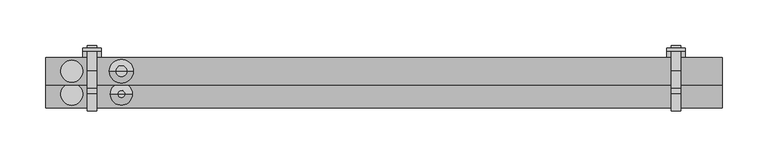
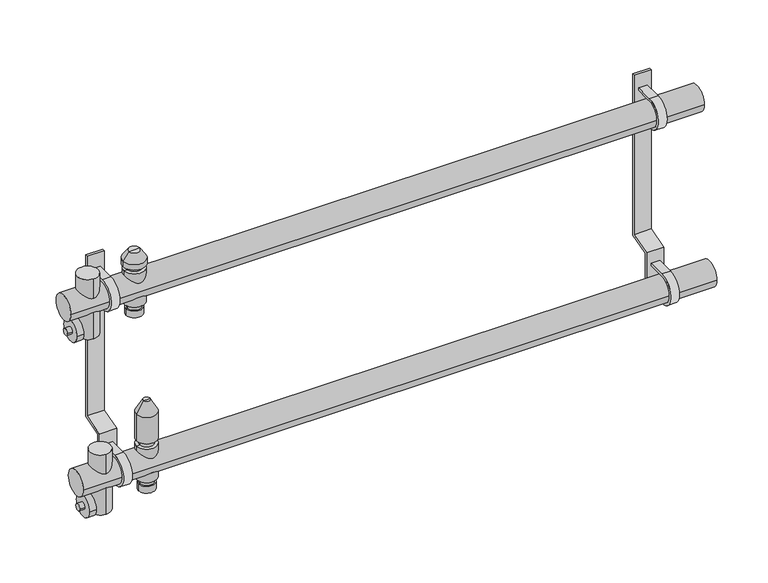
"""IFC4 building model written with IfcOpenShell, lengths in millimetres: valve geometry, PL AT_Manifold_FT-EV : 13 circuits."""

from ifc_helpers import new_model, si_unit, point, frame, frame_2d, origin, origin_2d, place, context, project, spatial, polyline, circle_curve, trimmed, segment, composite_curve, outline, extrude, source, transform, mapped, element, save
from ifc_brep_helpers import plane_surface, cylinder_surface, revolved_surface, advanced_brep


def valve_96d576d6(model_context):
    return source(origin(), model_context, "Body", "SolidModel", [
        advanced_brep(
        [(32.5, 25.0, 164.88733), (51.5, 25.0, 164.88733), (42.0, 25.0, 164.88733), (32.5, 25.0, 172.9630354), (51.5, 25.0, 172.9630354), (34.0, 25.0, 172.9630354), (50.0, 25.0, 172.9630354), (34.0, 25.0, 179.669747), (50.0, 25.0, 179.669747), (30.0, 25.0, 179.669747), (54.0, 25.0, 179.669747), (30.0, 25.0, 220.330253), (54.0, 25.0, 220.330253), (34.0, 25.0, 220.330253), (50.0, 25.0, 220.330253), (34.0, 25.0, 226.0474786), (50.0, 25.0, 226.0474786), (29.0, 25.0, 226.0474786), (55.0, 25.0, 226.0474786), (29.0, 25.0, 232.337955), (55.0, 25.0, 232.337955), (35.6551779, 25.0, 241.842534), (48.3448221, 25.0, 241.842534), (42.0, 25.0, 241.842534)],
        [
            (0, 1, circle_curve(frame((42.0, 25.0, 164.88733), z_axis=(0.0, 0.0, -1.0), x_axis=(1.0, 0.0, 0.0)), 9.5)),
            (1, 2),
            (2, 0),
            (1, 0, circle_curve(frame((42.0, 25.0, 164.88733), z_axis=(0.0, 0.0, -1.0), x_axis=(1.0, 0.0, 0.0)), 9.5)),
            (3, 4, circle_curve(frame((42.0, 25.0, 172.9630354), z_axis=(0.0, 0.0, -1.0), x_axis=(1.0, 0.0, 0.0)), 9.5)),
            (4, 1),
            (0, 3),
            (4, 3, circle_curve(frame((42.0, 25.0, 172.9630354), z_axis=(0.0, 0.0, -1.0), x_axis=(1.0, 0.0, 0.0)), 9.5)),
            (5, 6, circle_curve(frame((42.0, 25.0, 172.9630354), z_axis=(0.0, 0.0, -1.0), x_axis=(1.0, 0.0, 0.0)), 8.0)),
            (6, 4),
            (3, 5),
            (6, 5, circle_curve(frame((42.0, 25.0, 172.9630354), z_axis=(0.0, 0.0, -1.0), x_axis=(1.0, 0.0, 0.0)), 8.0)),
            (7, 8, circle_curve(frame((42.0, 25.0, 179.669747), z_axis=(0.0, 0.0, -1.0), x_axis=(1.0, 0.0, 0.0)), 8.0)),
            (8, 6),
            (5, 7),
            (8, 7, circle_curve(frame((42.0, 25.0, 179.669747), z_axis=(0.0, 0.0, -1.0), x_axis=(1.0, 0.0, 0.0)), 8.0)),
            (9, 10, circle_curve(frame((42.0, 25.0, 179.669747), z_axis=(0.0, 0.0, -1.0), x_axis=(1.0, 0.0, 0.0)), 12.0)),
            (10, 8),
            (7, 9),
            (10, 9, circle_curve(frame((42.0, 25.0, 179.669747), z_axis=(0.0, 0.0, -1.0), x_axis=(1.0, 0.0, 0.0)), 12.0)),
            (11, 12, circle_curve(frame((42.0, 25.0, 220.330253), z_axis=(0.0, 0.0, -1.0), x_axis=(1.0, 0.0, 0.0)), 12.0)),
            (12, 10),
            (9, 11),
            (12, 11, circle_curve(frame((42.0, 25.0, 220.330253), z_axis=(0.0, 0.0, -1.0), x_axis=(1.0, 0.0, 0.0)), 12.0)),
            (13, 14, circle_curve(frame((42.0, 25.0, 220.330253), z_axis=(0.0, 0.0, -1.0), x_axis=(1.0, 0.0, 0.0)), 8.0)),
            (14, 12),
            (11, 13),
            (14, 13, circle_curve(frame((42.0, 25.0, 220.330253), z_axis=(0.0, 0.0, -1.0), x_axis=(1.0, 0.0, 0.0)), 8.0)),
            (15, 16, circle_curve(frame((42.0, 25.0, 226.0474786), z_axis=(0.0, 0.0, -1.0), x_axis=(1.0, 0.0, 0.0)), 8.0)),
            (16, 14),
            (13, 15),
            (16, 15, circle_curve(frame((42.0, 25.0, 226.0474786), z_axis=(0.0, 0.0, -1.0), x_axis=(1.0, 0.0, 0.0)), 8.0)),
            (17, 18, circle_curve(frame((42.0, 25.0, 226.0474786), z_axis=(0.0, 0.0, -1.0), x_axis=(1.0, 0.0, 0.0)), 13.0)),
            (18, 16),
            (15, 17),
            (18, 17, circle_curve(frame((42.0, 25.0, 226.0474786), z_axis=(0.0, 0.0, -1.0), x_axis=(1.0, 0.0, 0.0)), 13.0)),
            (19, 20, circle_curve(frame((42.0, 25.0, 232.337955), z_axis=(0.0, 0.0, -1.0), x_axis=(1.0, 0.0, 0.0)), 13.0)),
            (20, 18),
            (17, 19),
            (20, 19, circle_curve(frame((42.0, 25.0, 232.337955), z_axis=(0.0, 0.0, -1.0), x_axis=(1.0, 0.0, 0.0)), 13.0)),
            (21, 22, circle_curve(frame((42.0, 25.0, 241.842534), z_axis=(0.0, 0.0, -1.0), x_axis=(1.0, 0.0, 0.0)), 6.3448221)),
            (22, 20),
            (19, 21),
            (22, 21, circle_curve(frame((42.0, 25.0, 241.842534), z_axis=(0.0, 0.0, -1.0), x_axis=(1.0, 0.0, 0.0)), 6.3448221)),
            (23, 22),
            (21, 23),
        ],
        [
            plane_surface(frame((42.0, 25.0, 164.88733), z_axis=(0.0, 0.0, -1.0), x_axis=(1.0, 0.0, 0.0))),
            cylinder_surface(frame((42.0, 25.0, 237.7026565), z_axis=(0.0, 0.0, 1.0), x_axis=(1.0, 0.0, 0.0)), 9.5),
            plane_surface(frame((42.0, 25.0, 172.9630354), z_axis=(0.0, 0.0, 1.0), x_axis=(1.0, 0.0, 0.0))),
            cylinder_surface(frame((42.0, 25.0, 237.7026565), z_axis=(0.0, 0.0, 1.0), x_axis=(1.0, 0.0, 0.0)), 8.0),
            plane_surface(frame((42.0, 25.0, 179.669747), z_axis=(0.0, 0.0, -1.0), x_axis=(1.0, 0.0, 0.0))),
            cylinder_surface(frame((42.0, 25.0, 237.7026565), z_axis=(0.0, 0.0, 1.0), x_axis=(1.0, 0.0, 0.0)), 12.0),
            plane_surface(frame((42.0, 25.0, 220.330253), z_axis=(0.0, 0.0, 1.0), x_axis=(1.0, 0.0, 0.0))),
            plane_surface(frame((42.0, 25.0, 226.0474786), z_axis=(0.0, 0.0, -1.0), x_axis=(1.0, 0.0, 0.0))),
            cylinder_surface(frame((42.0, 25.0, 237.7026565), z_axis=(0.0, 0.0, 1.0), x_axis=(1.0, 0.0, 0.0)), 13.0),
            revolved_surface(polyline([(55.0, 25.0, 232.337955), (48.3448221, 25.0, 241.842534)]), (42.0, 25.0, 237.7026565), (0.0, 0.0, 1.0)),
            plane_surface(frame((42.0, 25.0, 241.842534), z_axis=(0.0, 0.0, 1.0), x_axis=(1.0, 0.0, 0.0))),
        ],
        [
            (0, [[1, 2, 3]]),
            (0, [[4, -3, -2]]),
            (1, [[5, 6, -1, 7]]),
            (1, [[8, -7, -4, -6]]),
            (2, [[9, 10, -5, 11]]),
            (2, [[12, -11, -8, -10]]),
            (3, [[13, 14, -9, 15]]),
            (3, [[16, -15, -12, -14]]),
            (4, [[17, 18, -13, 19]]),
            (4, [[20, -19, -16, -18]]),
            (5, [[21, 22, -17, 23]]),
            (5, [[24, -23, -20, -22]]),
            (6, [[25, 26, -21, 27]]),
            (6, [[28, -27, -24, -26]]),
            (3, [[29, 30, -25, 31]]),
            (3, [[32, -31, -28, -30]]),
            (7, [[33, 34, -29, 35]]),
            (7, [[36, -35, -32, -34]]),
            (8, [[37, 38, -33, 39]]),
            (8, [[40, -39, -36, -38]]),
            (9, [[41, 42, -37, 43]]),
            (9, [[44, -43, -40, -42]]),
            (10, [[45, -41, 46]]),
            (10, [[-46, -44, -45]]),
        ],
    ),
        advanced_brep(
        [(32.5, 0.0, -35.11267), (51.5, 0.0, -35.11267), (42.0, 0.0, -35.11267), (32.5, 0.0, -27.0369646), (51.5, 0.0, -27.0369646), (34.0, 0.0, -27.0369646), (50.0, 0.0, -27.0369646), (34.0, 0.0, -20.330253), (50.0, 0.0, -20.330253), (30.0, 0.0, -20.330253), (54.0, 0.0, -20.330253), (30.0, 0.0, 20.330253), (54.0, 0.0, 20.330253), (34.0, 0.0, 20.330253), (50.0, 0.0, 20.330253), (34.0, 0.0, 27.0474786), (50.0, 0.0, 27.0474786), (30.0, 0.0, 27.0474786), (54.0, 0.0, 27.0474786), (30.0, 0.0, 59.4084325), (54.0, 0.0, 59.4084325), (38.0, 0.0, 73.264839), (46.0, 0.0, 73.264839), (42.0, 0.0, 73.264839)],
        [
            (0, 1, circle_curve(frame((42.0, 0.0, -35.11267), z_axis=(0.0, 0.0, -1.0), x_axis=(1.0, 0.0, 0.0)), 9.5)),
            (1, 2),
            (2, 0),
            (1, 0, circle_curve(frame((42.0, 0.0, -35.11267), z_axis=(0.0, 0.0, -1.0), x_axis=(1.0, 0.0, 0.0)), 9.5)),
            (3, 4, circle_curve(frame((42.0, 0.0, -27.0369646), z_axis=(0.0, 0.0, -1.0), x_axis=(1.0, 0.0, 0.0)), 9.5)),
            (4, 1),
            (0, 3),
            (4, 3, circle_curve(frame((42.0, 0.0, -27.0369646), z_axis=(0.0, 0.0, -1.0), x_axis=(1.0, 0.0, 0.0)), 9.5)),
            (5, 6, circle_curve(frame((42.0, 0.0, -27.0369646), z_axis=(0.0, 0.0, -1.0), x_axis=(1.0, 0.0, 0.0)), 8.0)),
            (6, 4),
            (3, 5),
            (6, 5, circle_curve(frame((42.0, 0.0, -27.0369646), z_axis=(0.0, 0.0, -1.0), x_axis=(1.0, 0.0, 0.0)), 8.0)),
            (7, 8, circle_curve(frame((42.0, 0.0, -20.330253), z_axis=(0.0, 0.0, -1.0), x_axis=(1.0, 0.0, 0.0)), 8.0)),
            (8, 6),
            (5, 7),
            (8, 7, circle_curve(frame((42.0, 0.0, -20.330253), z_axis=(0.0, 0.0, -1.0), x_axis=(1.0, 0.0, 0.0)), 8.0)),
            (9, 10, circle_curve(frame((42.0, 0.0, -20.330253), z_axis=(0.0, 0.0, -1.0), x_axis=(1.0, 0.0, 0.0)), 12.0)),
            (10, 8),
            (7, 9),
            (10, 9, circle_curve(frame((42.0, 0.0, -20.330253), z_axis=(0.0, 0.0, -1.0), x_axis=(1.0, 0.0, 0.0)), 12.0)),
            (11, 12, circle_curve(frame((42.0, 0.0, 20.330253), z_axis=(0.0, 0.0, -1.0), x_axis=(1.0, 0.0, 0.0)), 12.0)),
            (12, 10),
            (9, 11),
            (12, 11, circle_curve(frame((42.0, 0.0, 20.330253), z_axis=(0.0, 0.0, -1.0), x_axis=(1.0, 0.0, 0.0)), 12.0)),
            (13, 14, circle_curve(frame((42.0, 0.0, 20.330253), z_axis=(0.0, 0.0, -1.0), x_axis=(1.0, 0.0, 0.0)), 8.0)),
            (14, 12),
            (11, 13),
            (14, 13, circle_curve(frame((42.0, 0.0, 20.330253), z_axis=(0.0, 0.0, -1.0), x_axis=(1.0, 0.0, 0.0)), 8.0)),
            (15, 16, circle_curve(frame((42.0, 0.0, 27.0474786), z_axis=(0.0, 0.0, -1.0), x_axis=(1.0, 0.0, 0.0)), 8.0)),
            (16, 14),
            (13, 15),
            (16, 15, circle_curve(frame((42.0, 0.0, 27.0474786), z_axis=(0.0, 0.0, -1.0), x_axis=(1.0, 0.0, 0.0)), 8.0)),
            (17, 18, circle_curve(frame((42.0, 0.0, 27.0474786), z_axis=(0.0, 0.0, -1.0), x_axis=(1.0, 0.0, 0.0)), 12.0)),
            (18, 16),
            (15, 17),
            (18, 17, circle_curve(frame((42.0, 0.0, 27.0474786), z_axis=(0.0, 0.0, -1.0), x_axis=(1.0, 0.0, 0.0)), 12.0)),
            (19, 20, circle_curve(frame((42.0, 0.0, 59.4084325), z_axis=(0.0, 0.0, -1.0), x_axis=(1.0, 0.0, 0.0)), 12.0)),
            (20, 18),
            (17, 19),
            (20, 19, circle_curve(frame((42.0, 0.0, 59.4084325), z_axis=(0.0, 0.0, -1.0), x_axis=(1.0, 0.0, 0.0)), 12.0)),
            (21, 22, circle_curve(frame((42.0, 0.0, 73.264839), z_axis=(0.0, 0.0, -1.0), x_axis=(1.0, 0.0, 0.0)), 4.0)),
            (22, 20),
            (19, 21),
            (22, 21, circle_curve(frame((42.0, 0.0, 73.264839), z_axis=(0.0, 0.0, -1.0), x_axis=(1.0, 0.0, 0.0)), 4.0)),
            (23, 22),
            (21, 23),
        ],
        [
            plane_surface(frame((42.0, 0.0, -35.11267), z_axis=(0.0, 0.0, -1.0), x_axis=(1.0, 0.0, 0.0))),
            cylinder_surface(frame((42.0, 0.0, 58.264839), z_axis=(0.0, 0.0, 1.0), x_axis=(1.0, 0.0, 0.0)), 9.5),
            plane_surface(frame((42.0, 0.0, -27.0369646), z_axis=(0.0, 0.0, 1.0), x_axis=(1.0, 0.0, 0.0))),
            cylinder_surface(frame((42.0, 0.0, 58.264839), z_axis=(0.0, 0.0, 1.0), x_axis=(1.0, 0.0, 0.0)), 8.0),
            plane_surface(frame((42.0, 0.0, -20.330253), z_axis=(0.0, 0.0, -1.0), x_axis=(1.0, 0.0, 0.0))),
            cylinder_surface(frame((42.0, 0.0, 58.264839), z_axis=(0.0, 0.0, 1.0), x_axis=(1.0, 0.0, 0.0)), 12.0),
            plane_surface(frame((42.0, 0.0, 20.330253), z_axis=(0.0, 0.0, 1.0), x_axis=(1.0, 0.0, 0.0))),
            plane_surface(frame((42.0, 0.0, 27.0474786), z_axis=(0.0, 0.0, -1.0), x_axis=(1.0, 0.0, 0.0))),
            revolved_surface(polyline([(54.0, 0.0, 59.4084325), (46.0, 0.0, 73.264839)]), (42.0, 0.0, 58.264839), (0.0, 0.0, 1.0)),
            plane_surface(frame((42.0, 0.0, 73.264839), z_axis=(0.0, 0.0, 1.0), x_axis=(1.0, 0.0, 0.0))),
        ],
        [
            (0, [[1, 2, 3]]),
            (0, [[4, -3, -2]]),
            (1, [[5, 6, -1, 7]]),
            (1, [[8, -7, -4, -6]]),
            (2, [[9, 10, -5, 11]]),
            (2, [[12, -11, -8, -10]]),
            (3, [[13, 14, -9, 15]]),
            (3, [[16, -15, -12, -14]]),
            (4, [[17, 18, -13, 19]]),
            (4, [[20, -19, -16, -18]]),
            (5, [[21, 22, -17, 23]]),
            (5, [[24, -23, -20, -22]]),
            (6, [[25, 26, -21, 27]]),
            (6, [[28, -27, -24, -26]]),
            (3, [[29, 30, -25, 31]]),
            (3, [[32, -31, -28, -30]]),
            (7, [[33, 34, -29, 35]]),
            (7, [[36, -35, -32, -34]]),
            (5, [[37, 38, -33, 39]]),
            (5, [[40, -39, -36, -38]]),
            (8, [[41, 42, -37, 43]]),
            (8, [[44, -43, -40, -42]]),
            (9, [[45, -41, 46]]),
            (9, [[-46, -44, -45]]),
        ],
    ),
        extrude(outline(composite_curve([segment(trimmed(circle_curve(frame_2d((25.0, 169.0476755)), 4.0), [point((29.0, 169.0476755))], [point((21.0, 169.0476755))], False, "CARTESIAN"), True, "CONTINUOUS"), segment(trimmed(circle_curve(frame_2d((25.0, 169.0476755)), 4.0), [point((21.0, 169.0476755))], [point((29.0, 169.0476755))], False, "CARTESIAN"), True, "CONTINUOUS")], self_intersect=False)), frame((-37.7602444, 0.0, 0.0), z_axis=(1.0, 0.0, 0.0), x_axis=(0.0, 1.0, 0.0)), (0.0, 0.0, 1.0), 5.7448033),
        extrude(outline(composite_curve([segment(trimmed(circle_curve(frame_2d((25.0, 169.0476755)), 13.0), [point((38.0, 169.0476755))], [point((12.0, 169.0476755))], False, "CARTESIAN"), True, "CONTINUOUS"), segment(trimmed(circle_curve(frame_2d((25.0, 169.0476755)), 13.0), [point((12.0, 169.0476755))], [point((38.0, 169.0476755))], False, "CARTESIAN"), True, "CONTINUOUS")], self_intersect=False)), frame((-32.0154412, 0.0, 0.0), z_axis=(1.0, 0.0, 0.0), x_axis=(0.0, 1.0, 0.0)), (0.0, 0.0, 1.0), 7.9555096),
        extrude(outline(composite_curve([segment(trimmed(circle_curve(frame_2d((-12.0, 25.0)), 12.0), [point((-12.0, 13.0))], [point((-12.0, 37.0))], False, "CARTESIAN"), True, "CONTINUOUS"), segment(trimmed(circle_curve(frame_2d((-12.0, 25.0)), 12.0), [point((-12.0, 37.0))], [point((-12.0, 13.0))], False, "CARTESIAN"), True, "CONTINUOUS")], self_intersect=False)), frame((0.0, 0.0, 158.8001215), z_axis=(0.0, 0.0, 1.0), x_axis=(1.0, 0.0, 0.0)), (0.0, 0.0, 1.0), 73.4605406),
        extrude(outline(composite_curve([segment(trimmed(circle_curve(frame_2d((0.0, -30.9523245)), 4.0), [point((4.0, -30.9523245))], [point((-4.0, -30.9523245))], False, "CARTESIAN"), True, "CONTINUOUS"), segment(trimmed(circle_curve(frame_2d((0.0, -30.9523245)), 4.0), [point((-4.0, -30.9523245))], [point((4.0, -30.9523245))], False, "CARTESIAN"), True, "CONTINUOUS")], self_intersect=False)), frame((-37.7602444, 0.0, 0.0), z_axis=(1.0, 0.0, 0.0), x_axis=(0.0, 1.0, 0.0)), (0.0, 0.0, 1.0), 5.7448033),
        extrude(outline(composite_curve([segment(trimmed(circle_curve(frame_2d((0.0, -30.9523245)), 13.0), [point((13.0, -30.9523245))], [point((-13.0, -30.9523245))], False, "CARTESIAN"), True, "CONTINUOUS"), segment(trimmed(circle_curve(frame_2d((0.0, -30.9523245)), 13.0), [point((-13.0, -30.9523245))], [point((13.0, -30.9523245))], False, "CARTESIAN"), True, "CONTINUOUS")], self_intersect=False)), frame((-32.0154412, 0.0, 0.0), z_axis=(1.0, 0.0, 0.0), x_axis=(0.0, 1.0, 0.0)), (0.0, 0.0, 1.0), 7.9555096),
        extrude(outline(composite_curve([segment(trimmed(circle_curve(frame_2d((-12.0, 0.0)), 12.0), [point((-12.0, -12.0))], [point((-12.0, 12.0))], False, "CARTESIAN"), True, "CONTINUOUS"), segment(trimmed(circle_curve(frame_2d((-12.0, 0.0)), 12.0), [point((-12.0, 12.0))], [point((-12.0, -12.0))], False, "CARTESIAN"), True, "CONTINUOUS")], self_intersect=False)), frame((0.0, 0.0, -41.1998785), z_axis=(0.0, 0.0, 1.0), x_axis=(1.0, 0.0, 0.0)), (0.0, 0.0, 1.0), 73.4605406),
        extrude(outline(polyline([(50.0, 37.1686346), (25.0, 30.0), (25.0, -30.0), (50.0, -39.0992559), (50.0, -51.1572069), (47.0, -51.1572069), (47.0, -41.1998785), (22.0, -32.1006226), (22.0, 32.2606622), (47.0, 39.4292968), (47.0, 235.0), (50.0, 235.0), (50.0, 37.1686346)])), frame((635.0, 0.0, 0.0), z_axis=(1.0, 0.0, 0.0), x_axis=(0.0, 1.0, 0.0)), (0.0, 0.0, 1.0), 20.0),
        extrude(outline(polyline([(50.0, 37.1686346), (25.0, 30.0), (25.0, -30.0), (50.0, -39.0992559), (50.0, -51.1572069), (47.0, -51.1572069), (47.0, -41.1998785), (22.0, -32.1006226), (22.0, 32.2606622), (47.0, 39.4292968), (47.0, 235.0), (50.0, 235.0), (50.0, 37.1686346)])), frame((0.0, 0.0, 0.0), z_axis=(1.0, 0.0, 0.0), x_axis=(0.0, 1.0, 0.0)), (0.0, 0.0, 1.0), 20.0),
        extrude(outline(composite_curve([segment(trimmed(circle_curve(origin_2d(), 15.0), [point((0.0, 15.0))], [point((0.0, -15.0))], True, "CARTESIAN"), True, "CONTINUOUS"), segment(polyline([(0.0, -15.0), (27.6751284, -15.0), (27.6751284, -18.0), (0.0, -18.0)]), True, "CONTINUOUS"), segment(trimmed(circle_curve(origin_2d(), 18.0), [point((0.0, -18.0))], [point((0.0, 18.0))], False, "CARTESIAN"), True, "CONTINUOUS"), segment(polyline([(0.0, 18.0), (27.6751284, 18.0), (27.6751284, 15.0), (0.0, 15.0)]), True, "CONTINUOUS")], self_intersect=False)), frame((640.0, 0.0, 0.0), z_axis=(1.0, 0.0, 0.0), x_axis=(0.0, 1.0, 0.0)), (0.0, 0.0, 1.0), 10.0),
        extrude(outline(composite_curve([segment(trimmed(circle_curve(frame_2d((25.0, 200.0)), 15.0), [point((25.0, 215.0))], [point((25.0, 185.0))], True, "CARTESIAN"), True, "CONTINUOUS"), segment(polyline([(25.0, 185.0), (52.6751284, 185.0), (52.6751284, 182.0), (25.0, 182.0)]), True, "CONTINUOUS"), segment(trimmed(circle_curve(frame_2d((25.0, 200.0)), 18.0), [point((25.0, 182.0))], [point((25.0, 218.0))], False, "CARTESIAN"), True, "CONTINUOUS"), segment(polyline([(25.0, 218.0), (52.6751284, 218.0), (52.6751284, 215.0), (25.0, 215.0)]), True, "CONTINUOUS")], self_intersect=False)), frame((640.0, 0.0, 0.0), z_axis=(1.0, 0.0, 0.0), x_axis=(0.0, 1.0, 0.0)), (0.0, 0.0, 1.0), 10.0),
        extrude(outline(composite_curve([segment(trimmed(circle_curve(origin_2d(), 15.0), [point((0.0, 15.0))], [point((0.0, -15.0))], True, "CARTESIAN"), True, "CONTINUOUS"), segment(polyline([(0.0, -15.0), (27.6751284, -15.0), (27.6751284, -18.0), (0.0, -18.0)]), True, "CONTINUOUS"), segment(trimmed(circle_curve(origin_2d(), 18.0), [point((0.0, -18.0))], [point((0.0, 18.0))], False, "CARTESIAN"), True, "CONTINUOUS"), segment(polyline([(0.0, 18.0), (27.6751284, 18.0), (27.6751284, 15.0), (0.0, 15.0)]), True, "CONTINUOUS")], self_intersect=False)), frame((5.0, 0.0, 0.0), z_axis=(1.0, 0.0, 0.0), x_axis=(0.0, 1.0, 0.0)), (0.0, 0.0, 1.0), 10.0),
        extrude(outline(composite_curve([segment(trimmed(circle_curve(frame_2d((25.0, 200.0)), 15.0), [point((25.0, 215.0))], [point((25.0, 185.0))], True, "CARTESIAN"), True, "CONTINUOUS"), segment(polyline([(25.0, 185.0), (52.6751284, 185.0), (52.6751284, 182.0), (25.0, 182.0)]), True, "CONTINUOUS"), segment(trimmed(circle_curve(frame_2d((25.0, 200.0)), 18.0), [point((25.0, 182.0))], [point((25.0, 218.0))], False, "CARTESIAN"), True, "CONTINUOUS"), segment(polyline([(25.0, 218.0), (52.6751284, 218.0), (52.6751284, 215.0), (25.0, 215.0)]), True, "CONTINUOUS")], self_intersect=False)), frame((5.0, 0.0, 0.0), z_axis=(1.0, 0.0, 0.0), x_axis=(0.0, 1.0, 0.0)), (0.0, 0.0, 1.0), 10.0),
        extrude(outline(composite_curve([segment(trimmed(circle_curve(origin_2d(), 15.0), [point((15.0, 0.0))], [point((-15.0, 0.0))], False, "CARTESIAN"), True, "CONTINUOUS"), segment(trimmed(circle_curve(origin_2d(), 15.0), [point((-15.0, 0.0))], [point((15.0, 0.0))], False, "CARTESIAN"), True, "CONTINUOUS")], self_intersect=False)), frame((-40.0, 0.0, 0.0), z_axis=(1.0, 0.0, 0.0), x_axis=(0.0, 1.0, 0.0)), (0.0, 0.0, 1.0), 735.0),
        extrude(outline(composite_curve([segment(trimmed(circle_curve(frame_2d((25.0, 200.0)), 15.0), [point((40.0, 200.0))], [point((10.0, 200.0))], False, "CARTESIAN"), True, "CONTINUOUS"), segment(trimmed(circle_curve(frame_2d((25.0, 200.0)), 15.0), [point((10.0, 200.0))], [point((40.0, 200.0))], False, "CARTESIAN"), True, "CONTINUOUS")], self_intersect=False)), frame((-40.0, 0.0, 0.0), z_axis=(1.0, 0.0, 0.0), x_axis=(0.0, 1.0, 0.0)), (0.0, 0.0, 1.0), 735.0),
    ])


if __name__ == "__main__":
    model = new_model("IFC4")
    model_context = context("Model", 3, world=origin())
    ifc_project = project(units=[si_unit("LENGTHUNIT", "METRE", prefix="MILLI")], contexts=[model_context])
    site = spatial("IfcSite", under=ifc_project)
    building = spatial("IfcBuilding", under=site)
    placement = place(None, origin())
    valve_shape = valve_96d576d6(model_context)
    element("IfcValve", 1, ObjectType="PL AT_Manifold_FT-EV : 13 circuits", at=placement, inside=building, context=model_context, shape_type="MappedRepresentation", body=[
        mapped(valve_shape, transform((0.0, 0.0, 0.0), x_axis=(1.0, 0.0, 0.0), y_axis=(0.0, 1.0, 0.0), z_axis=(0.0, 0.0, 1.0))),
    ])
    save(model, "model.ifc")
